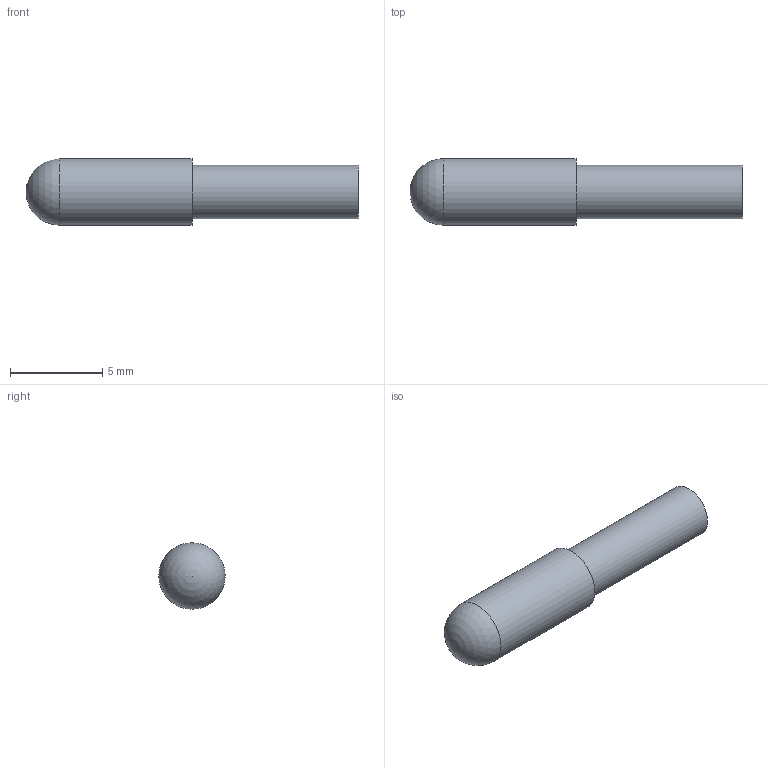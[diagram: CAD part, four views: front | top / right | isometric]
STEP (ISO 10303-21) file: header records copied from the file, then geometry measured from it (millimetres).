
FILE_DESCRIPTION( ( 'STEP AP203' ), '1' );
FILE_NAME( 'C:/Temp/Ganter_Step_05_03_2020/data/3_1/gn610/Spring loaded shell GN 610-3,6-18-HN.stp', '2020-03-12T08:33:19', ( 'License CC BY-ND 4.0' ), ( 'CADENAS' ), ' ', 'PARTsolutions', ' ' );
FILE_SCHEMA( ( 'CONFIG_CONTROL_DESIGN' ) );
Length unit declared in the file: millimetre
Products named in the file (1): _Spring loaded shell GN 610-3,6-18-HN
Bounding box: 18 x 3.6 x 3.6 mm (x, y, z)
Volume: 93.4 mm3; surface area: 269.2 mm2
Topology: 1 solids, 1 shells, 7 faces, 12 edges, 8 vertices
Faces by surface type: cylinder 3, plane 3, sphere 1
Full cylindrical faces by diameter (mm): 2.68 x1, 2.88 x1, 3.6 x1
Entity records: 182 total; most frequent: DIRECTION 28, CARTESIAN_POINT 21, AXIS2_PLACEMENT_3D 14, EDGE_LOOP 12, ORIENTED_EDGE 12, FACE_OUTER_BOUND 10, ADVANCED_FACE 7, VERTEX_POINT 7
